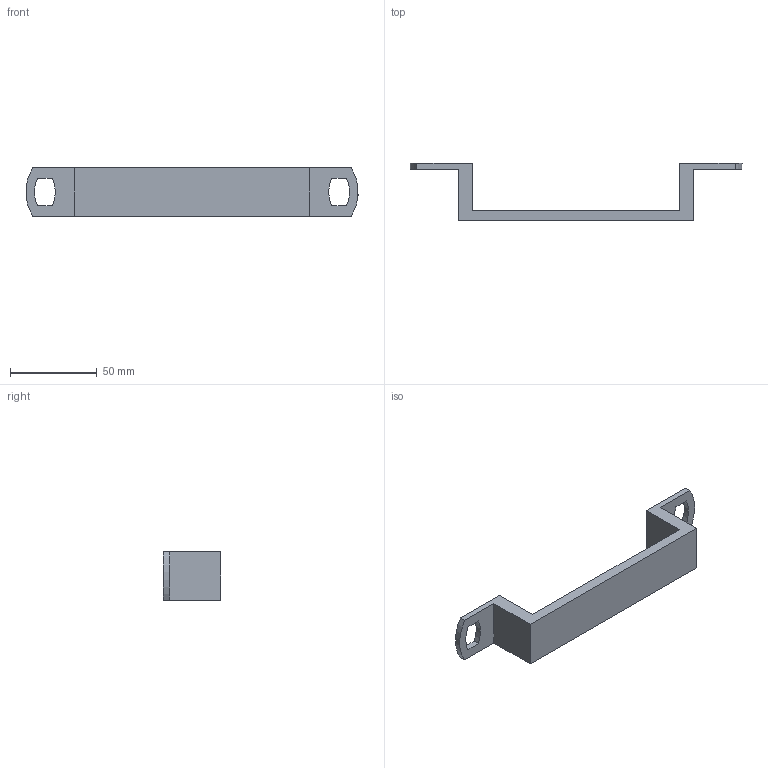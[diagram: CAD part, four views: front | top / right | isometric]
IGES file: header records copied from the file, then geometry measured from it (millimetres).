
Start section: Data from Parasolid IGES Translator 20.0.26, Copyright(c) 2006 Siemens P LM Software. All Rights Reserved.
Global section: file name: 9266420.igs; native system: By Siemens PLM Incorporated; preprocessor: XPlus GENERIC/IGES 20.0.26; author: Noname; organization: Noname; date: 20200630.115918; units: millimetre
Bounding box: 191.83 x 33 x 28 mm (x, y, z)
Surface area: 16660.9 mm2 (no closed solid volume)
Topology: 0 solids, 0 shells, 26 faces, 132 edges, 130 vertices
Faces by surface type: extrusion 18, revolution 8
